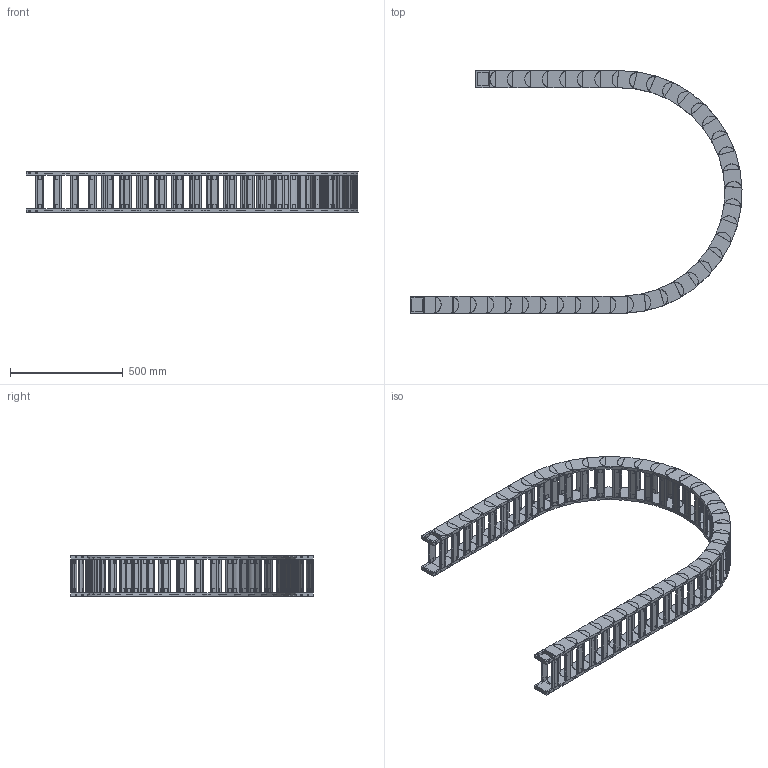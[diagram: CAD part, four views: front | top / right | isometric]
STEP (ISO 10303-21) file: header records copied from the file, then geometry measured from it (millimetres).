
FILE_DESCRIPTION((''),'2;1');
FILE_NAME('HD55-R500-ZPT_ASM','2022-06-17T18:42:27',('admin'),(''),'CREO PARAMETRIC BY PTC INC, 2021164','CREO PARAMETRIC BY PTC INC, 2021164','');
FILE_SCHEMA(('CONFIG_CONTROL_DESIGN','GEOMETRIC_VALIDATION_PROPERTIES_MIM'));
Length unit declared in the file: millimetre
Products named in the file (6): HD-55; 55-500001; HD55_ASM; H55-T1; H55-T2; HD55-R500-ZPT_ASM
Assembly tree (44 placements, depth 3):
  HD55-R500-ZPT_ASM
    HD55_ASM  x38
      HD-55
      55-500001
    H55-T1
    H55-T2
    55-500001  x2
Bounding box: 1472.73 x 1075.69 x 182.5 mm (x, y, z)
Volume: 10650764.9 mm3; surface area: 3269847 mm2
Topology: 160 solids, 160 shells, 2622 faces, 6726 edges, 4588 vertices
Faces by surface type: plane 2180, cylinder 442
Entity records: 8951 total; most frequent: CARTESIAN_POINT 1324, DIRECTION 1286, ORIENTED_EDGE 1172, EDGE_CURVE 586, AXIS2_PLACEMENT_3D 434, VECTOR 418, LINE 418, VERTEX_POINT 396
